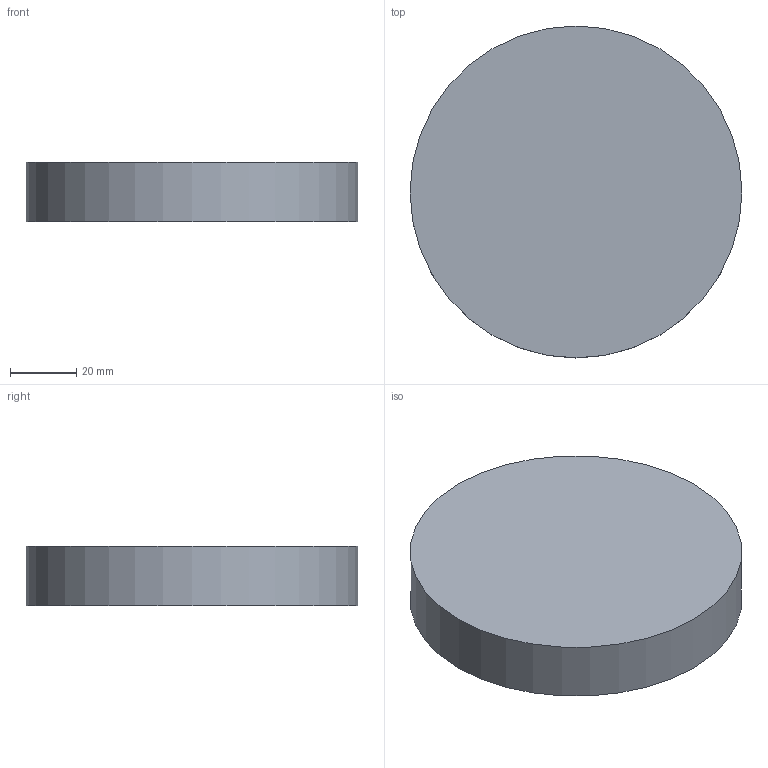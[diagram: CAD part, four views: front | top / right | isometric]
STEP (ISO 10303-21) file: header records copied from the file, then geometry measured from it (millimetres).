
FILE_DESCRIPTION(('Open CASCADE Model'),'2;1');
FILE_NAME('Open CASCADE Shape Model','2026-09-28T11:39:47',('Author'),( 'Open CASCADE'),'Open CASCADE STEP processor 7.9','Open CASCADE 7.9' ,'Unknown');
FILE_SCHEMA(('AUTOMOTIVE_DESIGN { 1 0 10303 214 1 1 1 1 }'));
Length unit declared in the file: millimetre
Products named in the file (2): disc-100; disc
Assembly tree (1 placements, depth 2):
  disc-100
    disc
Bounding box: 100 x 100 x 18 mm (x, y, z)
Volume: 141371.7 mm3; surface area: 21362.8 mm2
Topology: 1 solids, 1 shells, 3 faces, 3 edges, 2 vertices
Faces by surface type: plane 2, cylinder 1
Full cylindrical faces by diameter (mm): 100 x1
Entity records: 135 total; most frequent: DIRECTION 21, CARTESIAN_POINT 16, AXIS2_PLACEMENT_3D 7, ORIENTED_EDGE 6, PCURVE 6, DEFINITIONAL_REPRESENTATION 6, LINE 5, VECTOR 5
